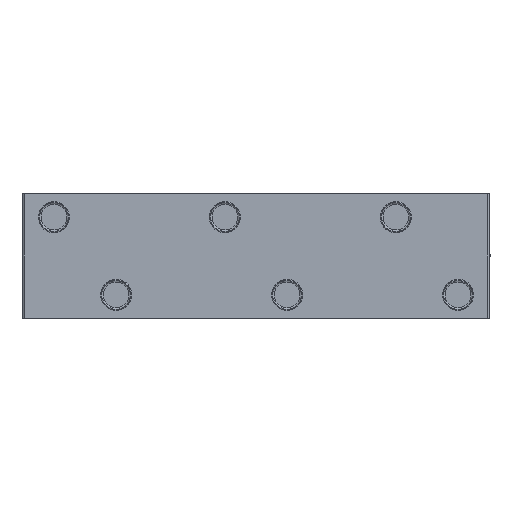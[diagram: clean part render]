
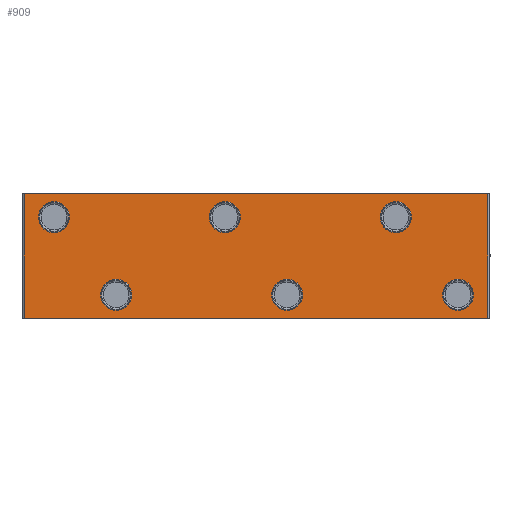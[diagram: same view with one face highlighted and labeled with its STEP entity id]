
A CAD part, front view. The second image highlights one B-rep face of the part: STEP entity #909.
In plain terms, the highlighted planar face has unit normal (0, -1, 0).
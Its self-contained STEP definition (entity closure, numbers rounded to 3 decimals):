
#128=PLANE('',#1042);
#177=LINE('',#1675,#238);
#181=LINE('',#1684,#242);
#185=LINE('',#1695,#246);
#189=LINE('',#1702,#250);
#238=VECTOR('',#1286,10.);
#242=VECTOR('',#1294,10.);
#246=VECTOR('',#1304,10.);
#250=VECTOR('',#1312,10.);
#318=FACE_OUTER_BOUND('',#379,.T.);
#379=EDGE_LOOP('',(#844,#845,#846,#847));
#488=VERTEX_POINT('',#1668);
#491=VERTEX_POINT('',#1673);
#494=VERTEX_POINT('',#1683);
#497=VERTEX_POINT('',#1691);
#601=EDGE_CURVE('',#491,#488,#177,.T.);
#605=EDGE_CURVE('',#488,#494,#181,.T.);
#611=EDGE_CURVE('',#494,#497,#185,.T.);
#615=EDGE_CURVE('',#497,#491,#189,.T.);
#844=ORIENTED_EDGE('',*,*,#601,.F.);
#845=ORIENTED_EDGE('',*,*,#615,.F.);
#846=ORIENTED_EDGE('',*,*,#611,.F.);
#847=ORIENTED_EDGE('',*,*,#605,.F.);
#909=ADVANCED_FACE('',(#318),#128,.F.);
#1042=AXIS2_PLACEMENT_3D('',#1704,#1315,#1316);
#1286=DIRECTION('',(0.,0.,1.));
#1294=DIRECTION('',(1.,0.,0.));
#1304=DIRECTION('',(0.,0.,-1.));
#1312=DIRECTION('',(-1.,0.,0.));
#1315=DIRECTION('center_axis',(0.,1.,0.));
#1316=DIRECTION('ref_axis',(1.,0.,0.));
#1668=CARTESIAN_POINT('',(-298.,0.,80.));
#1673=CARTESIAN_POINT('',(-298.,0.,-80.));
#1675=CARTESIAN_POINT('',(-298.,0.,-40.));
#1683=CARTESIAN_POINT('',(298.,0.,80.));
#1684=CARTESIAN_POINT('',(-300.,0.,80.));
#1691=CARTESIAN_POINT('',(298.,0.,-80.));
#1695=CARTESIAN_POINT('',(298.,0.,40.));
#1702=CARTESIAN_POINT('',(300.,0.,-80.));
#1704=CARTESIAN_POINT('Origin',(0.,0.,0.));
